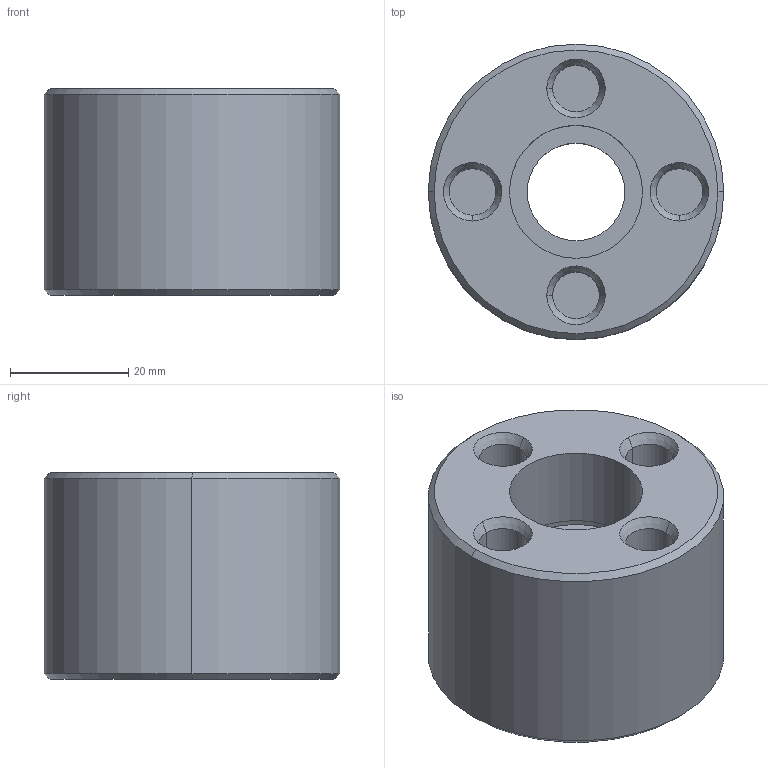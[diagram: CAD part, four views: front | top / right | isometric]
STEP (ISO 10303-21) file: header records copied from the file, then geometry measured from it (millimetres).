
FILE_DESCRIPTION(('CATIA V5 STEP Exchange'),'2;1');
FILE_NAME('D:\姚明阳\1、工装图纸\AGZ101 分体VDC阀压阀杆治具\AGZ101 分体VDC阀压阀杆治具（pdf+stp）\AGZ101.02_V1.stp','2023-08-29T05:12:47+00:00',('none'),('none'),'CATIA Version 5 Release 21 GA (IN-10)','CATIA V5 STEP AP214','none');
FILE_SCHEMA(('AUTOMOTIVE_DESIGN { 1 0 10303 214 1 1 1 1 }'));
Length unit declared in the file: millimetre
Products named in the file (1): AGZ101.02_V1
Bounding box: 50 x 50 x 35 mm (x, y, z)
Volume: 52166.1 mm3; surface area: 14211.4 mm2
Topology: 1 solids, 1 shells, 56 faces, 120 edges, 72 vertices
Faces by surface type: cylinder 24, plane 12, cone 12, sphere 8
Entity records: 1400 total; most frequent: CARTESIAN_POINT 307, ORIENTED_EDGE 224, DIRECTION 172, EDGE_CURVE 112, AXIS2_PLACEMENT_3D 103, EDGE_LOOP 72, VERTEX_POINT 72, CIRCLE 68
